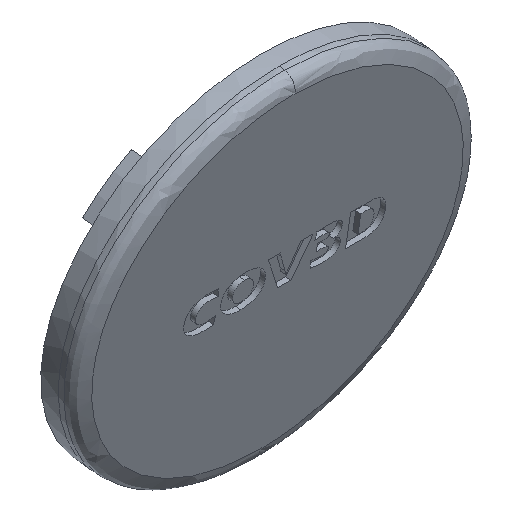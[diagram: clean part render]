
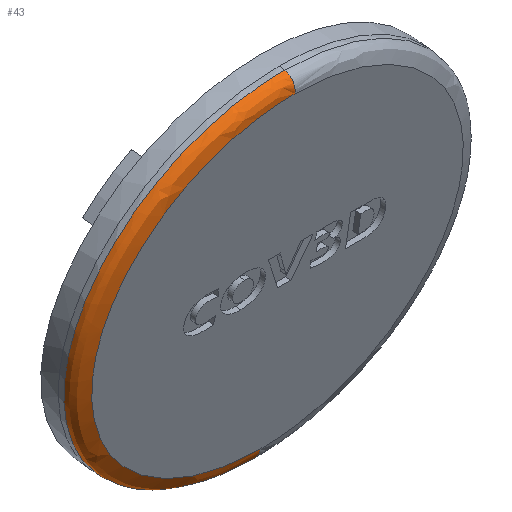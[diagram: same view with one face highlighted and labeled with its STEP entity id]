
A CAD part, isometric view. The second image highlights one B-rep face of the part: STEP entity #43.
In plain terms, the highlighted free-form (B-spline) face has degree [2, 2] with [3, 5] control points.
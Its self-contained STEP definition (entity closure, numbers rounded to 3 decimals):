
#43=ADVANCED_FACE('',(#110),#1043,.T.);
#110=FACE_OUTER_BOUND('',#186,.T.);
#186=EDGE_LOOP('',(#321,#322,#323,#324));
#321=ORIENTED_EDGE('',*,*,#577,.F.);
#322=ORIENTED_EDGE('',*,*,#578,.T.);
#323=ORIENTED_EDGE('',*,*,#579,.T.);
#324=ORIENTED_EDGE('',*,*,#713,.F.);
#577=EDGE_CURVE('',#888,#977,#727,.T.);
#578=EDGE_CURVE('',#888,#889,#728,.T.);
#579=EDGE_CURVE('',#889,#978,#729,.T.);
#713=EDGE_CURVE('',#977,#978,#746,.T.);
#727=(
BOUNDED_CURVE()
B_SPLINE_CURVE(2,(#2068,#2069,#2070,#2071,#2072),.UNSPECIFIED.,.F.,.F.)
B_SPLINE_CURVE_WITH_KNOTS((3,2,3),(0.,43.396,86.792),
 .UNSPECIFIED.)
CURVE()
GEOMETRIC_REPRESENTATION_ITEM()
RATIONAL_B_SPLINE_CURVE((1.,0.707,1.,0.707,1.))
REPRESENTATION_ITEM('')
);
#728=(
BOUNDED_CURVE()
B_SPLINE_CURVE(2,(#2073,#2074,#2075),.UNSPECIFIED.,.F.,.F.)
B_SPLINE_CURVE_WITH_KNOTS((3,3),(0.,3.727),.UNSPECIFIED.)
CURVE()
GEOMETRIC_REPRESENTATION_ITEM()
RATIONAL_B_SPLINE_CURVE((1.,0.707,1.))
REPRESENTATION_ITEM('')
);
#729=(
BOUNDED_CURVE()
B_SPLINE_CURVE(2,(#2076,#2077,#2078,#2079,#2080),.UNSPECIFIED.,.F.,.F.)
B_SPLINE_CURVE_WITH_KNOTS((3,2,3),(0.,43.396,86.792),
 .UNSPECIFIED.)
CURVE()
GEOMETRIC_REPRESENTATION_ITEM()
RATIONAL_B_SPLINE_CURVE((1.,0.707,1.,0.707,1.))
REPRESENTATION_ITEM('')
);
#746=(
BOUNDED_CURVE()
B_SPLINE_CURVE(2,(#2816,#2817,#2818),.UNSPECIFIED.,.F.,.F.)
B_SPLINE_CURVE_WITH_KNOTS((3,3),(0.,3.727),.UNSPECIFIED.)
CURVE()
GEOMETRIC_REPRESENTATION_ITEM()
RATIONAL_B_SPLINE_CURVE((1.,0.707,1.))
REPRESENTATION_ITEM('')
);
#888=VERTEX_POINT('',#1920);
#889=VERTEX_POINT('',#1921);
#977=VERTEX_POINT('',#2009);
#978=VERTEX_POINT('',#2010);
#1043=(
BOUNDED_SURFACE()
B_SPLINE_SURFACE(2,2,((#1190,#1191,#1192,#1193,#1194),(#1195,#1196,#1197,
#1198,#1199),(#1200,#1201,#1202,#1203,#1204)),.UNSPECIFIED.,.F.,.F.,.F.)
B_SPLINE_SURFACE_WITH_KNOTS((3,3),(3,2,3),(0.,3.727),(0.,43.396,
86.792),.UNSPECIFIED.)
GEOMETRIC_REPRESENTATION_ITEM()
RATIONAL_B_SPLINE_SURFACE(((1.,0.707,1.,0.707,1.),
(0.707,0.5,0.707,0.5,
0.707),(1.,0.707,1.,0.707,1.)))
REPRESENTATION_ITEM('')
SURFACE()
);
#1190=CARTESIAN_POINT('',(-0.114,-103.42,-28.291));
#1191=CARTESIAN_POINT('',(-39.932,-103.372,-28.286));
#1192=CARTESIAN_POINT('',(-39.932,-107.154,6.786));
#1193=CARTESIAN_POINT('',(-39.932,-110.935,41.857));
#1194=CARTESIAN_POINT('',(-0.114,-110.983,41.852));
#1195=CARTESIAN_POINT('',(-0.116,-105.78,-28.545));
#1196=CARTESIAN_POINT('',(-39.935,-105.732,-28.54));
#1197=CARTESIAN_POINT('',(-39.935,-109.513,6.531));
#1198=CARTESIAN_POINT('',(-39.935,-113.294,41.603));
#1199=CARTESIAN_POINT('',(-0.116,-113.342,41.598));
#1200=CARTESIAN_POINT('',(-0.116,-106.079,-25.771));
#1201=CARTESIAN_POINT('',(-36.786,-106.035,-25.766));
#1202=CARTESIAN_POINT('',(-36.786,-109.517,6.531));
#1203=CARTESIAN_POINT('',(-36.786,-112.999,38.828));
#1204=CARTESIAN_POINT('',(-0.116,-113.043,38.823));
#1920=CARTESIAN_POINT('',(-0.114,-103.42,-28.291));
#1921=CARTESIAN_POINT('',(-0.116,-106.079,-25.771));
#2009=CARTESIAN_POINT('',(-0.114,-110.983,41.852));
#2010=CARTESIAN_POINT('',(-0.116,-113.043,38.823));
#2068=CARTESIAN_POINT('',(-0.114,-103.42,-28.291));
#2069=CARTESIAN_POINT('',(-39.932,-103.372,-28.286));
#2070=CARTESIAN_POINT('',(-39.932,-107.154,6.786));
#2071=CARTESIAN_POINT('',(-39.932,-110.935,41.857));
#2072=CARTESIAN_POINT('',(-0.114,-110.983,41.852));
#2073=CARTESIAN_POINT('',(-0.114,-103.42,-28.291));
#2074=CARTESIAN_POINT('',(-0.116,-105.78,-28.545));
#2075=CARTESIAN_POINT('',(-0.116,-106.079,-25.771));
#2076=CARTESIAN_POINT('',(-0.116,-106.079,-25.771));
#2077=CARTESIAN_POINT('',(-36.786,-106.035,-25.766));
#2078=CARTESIAN_POINT('',(-36.786,-109.517,6.531));
#2079=CARTESIAN_POINT('',(-36.786,-112.999,38.828));
#2080=CARTESIAN_POINT('',(-0.116,-113.043,38.823));
#2816=CARTESIAN_POINT('',(-0.114,-110.983,41.852));
#2817=CARTESIAN_POINT('',(-0.116,-113.342,41.598));
#2818=CARTESIAN_POINT('',(-0.116,-113.043,38.823));
